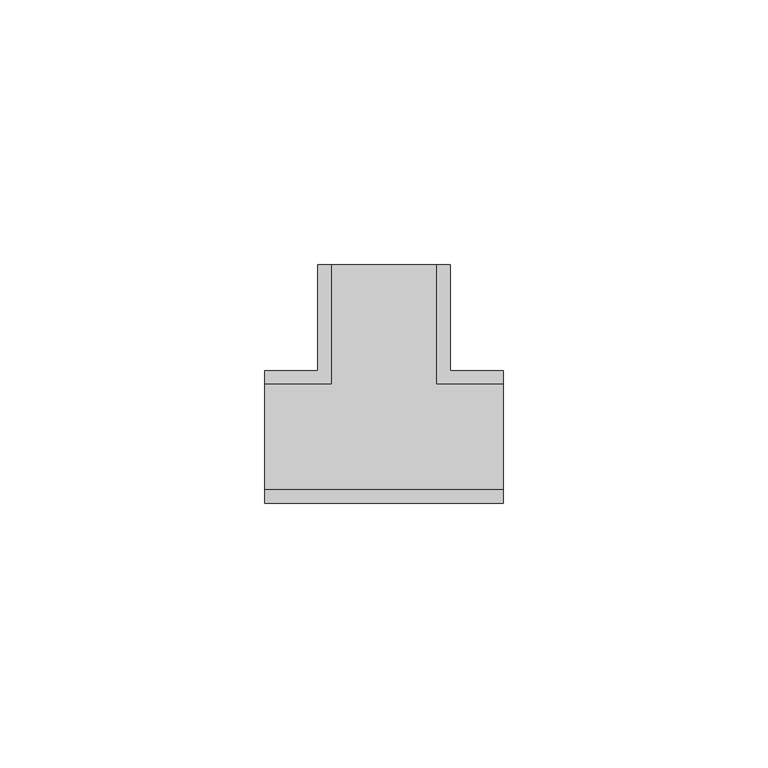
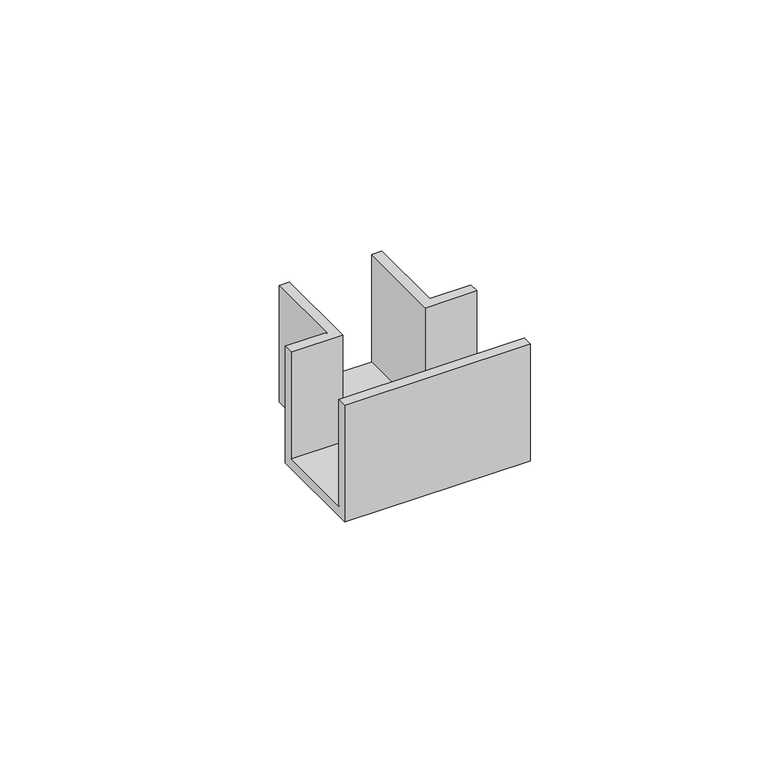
"""IFC4 building model written with IfcOpenShell, lengths in millimetres: cable carrier fitting geometry, КНС_ТройникNTAN_ILC_DKC : Тройник/отвод."""

from ifc_helpers import new_model, si_unit, origin, place, context, project, spatial, faceted_brep, source, transform, mapped, element, save


def cable_carrier_fitting_23137bce(model_context):
    return source(origin(), model_context, "Body", "Brep", [
        faceted_brep([(22.5, -10.0, -12.5), (22.5, 10.0, -12.5), (10.0, 10.0, -12.5), (10.0, 32.5, -12.5), (-10.0, 32.5, -12.5), (-10.0, 10.0, -12.5), (-22.5, 10.0, -12.5), (-22.5, -10.0, -12.5), (22.5, -12.5, -15.0), (-22.5, -12.5, -15.0), (-22.5, 12.5, -15.0), (-12.5, 12.5, -15.0), (-12.5, 32.5, -15.0), (12.5, 32.5, -15.0), (12.5, 12.5, -15.0), (22.5, 12.5, -15.0), (22.5, 12.5, 15.0), (22.5, 10.0, 15.0), (22.5, -10.0, 15.0), (22.5, -12.5, 15.0), (12.5, 12.5, 15.0), (12.5, 32.5, 15.0), (-12.5, 32.5, 15.0), (-10.0, 32.5, 15.0), (10.0, 32.5, 15.0), (-12.5, 12.5, 15.0), (-22.5, 12.5, 15.0), (-22.5, -12.5, 15.0), (-22.5, -10.0, 15.0), (-22.5, 10.0, 15.0), (10.0, 10.0, 15.0), (-10.0, 10.0, 15.0)], [[[0, 1, 2, 3, 4, 5, 6, 7]], [[8, 9, 10, 11, 12, 13, 14, 15]], [[8, 15, 16, 17, 1, 0, 18, 19]], [[16, 15, 14, 20]], [[20, 14, 13, 21]], [[21, 13, 12, 22, 23, 4, 3, 24]], [[22, 12, 11, 25]], [[25, 11, 10, 26]], [[26, 10, 9, 27, 28, 7, 6, 29]], [[27, 9, 8, 19]], [[20, 21, 24, 30, 17, 16]], [[25, 26, 29, 31, 23, 22]], [[27, 19, 18, 28]], [[31, 29, 6, 5]], [[23, 31, 5, 4]], [[30, 24, 3, 2]], [[17, 30, 2, 1]], [[28, 18, 0, 7]]]),
    ])


if __name__ == "__main__":
    model = new_model("IFC4")
    model_context = context("Model", 3, world=origin())
    ifc_project = project(units=[si_unit("LENGTHUNIT", "METRE", prefix="MILLI")], contexts=[model_context])
    site = spatial("IfcSite", under=ifc_project)
    building = spatial("IfcBuilding", under=site)
    placement = place(None, origin())
    cable_carrier_fitting_shape = cable_carrier_fitting_23137bce(model_context)
    element("IfcCableCarrierFitting", 1, ObjectType="КНС_ТройникNTAN_ILC_DKC : Тройник/отвод", at=placement, inside=building, context=model_context, shape_type="MappedRepresentation", body=[
        mapped(cable_carrier_fitting_shape, transform((0.0, 0.0, 0.0), x_axis=(1.0, 0.0, 0.0), y_axis=(0.0, 1.0, 0.0), z_axis=(0.0, 0.0, 1.0))),
    ])
    save(model, "model.ifc")
